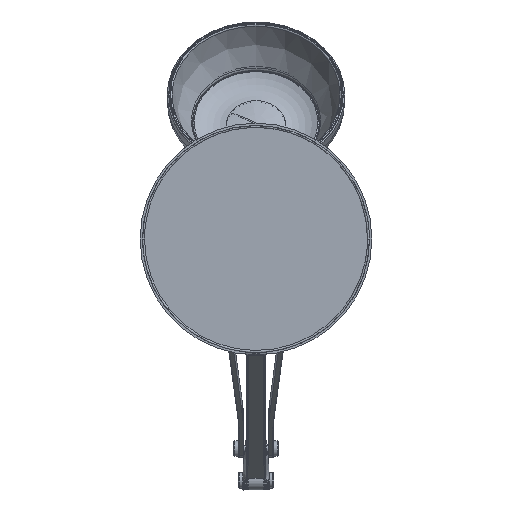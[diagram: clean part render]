
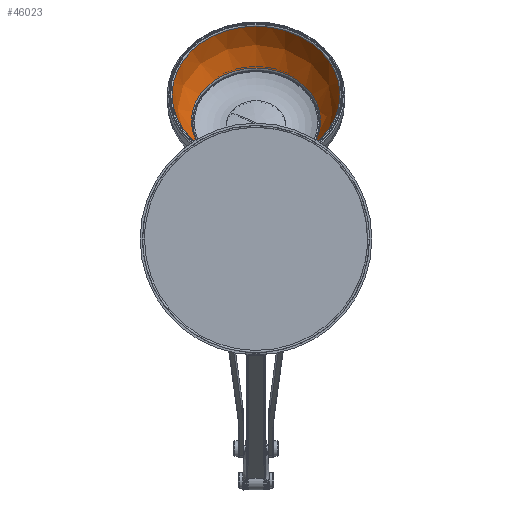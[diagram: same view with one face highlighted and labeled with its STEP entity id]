
A CAD part, front view. The second image highlights one B-rep face of the part: STEP entity #46023.
In plain terms, the highlighted free-form (B-spline) face has degree [2, 2] with [3, 9] control points.
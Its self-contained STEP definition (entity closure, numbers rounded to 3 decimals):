
#955=(
BOUNDED_SURFACE()
B_SPLINE_SURFACE(2,2,((#107862,#107863,#107864,#107865,#107866,#107867,
#107868,#107869,#107870),(#107871,#107872,#107873,#107874,#107875,#107876,
#107877,#107878,#107879),(#107880,#107881,#107882,#107883,#107884,#107885,
#107886,#107887,#107888)),.UNSPECIFIED.,.F.,.T.,.F.)
B_SPLINE_SURFACE_WITH_KNOTS((3,3),(3,2,2,2,3),(-0.754,-0.052),
(-3.142,-1.571,0.,1.571,3.142),
 .UNSPECIFIED.)
GEOMETRIC_REPRESENTATION_ITEM()
RATIONAL_B_SPLINE_SURFACE(((1.,0.707,1.,0.707,1.,
0.707,1.,0.707,1.),(0.939,0.664,
0.939,0.664,0.939,0.664,
0.939,0.664,0.939),(1.,0.707,
1.,0.707,1.,0.707,1.,0.707,1.)))
REPRESENTATION_ITEM('')
SURFACE()
);
#6872=FACE_OUTER_BOUND('',#9797,.T.);
#9797=EDGE_LOOP('',(#38037,#38038,#38039,#38040,#38041));
#16319=CIRCLE('',#50253,33.474);
#16320=CIRCLE('',#50254,33.474);
#16337=CIRCLE('',#50279,43.5);
#16350=CIRCLE('',#50296,37.201);
#20047=VERTEX_POINT('',#107767);
#20048=VERTEX_POINT('',#107769);
#20060=VERTEX_POINT('',#107809);
#26128=EDGE_CURVE('',#20047,#20048,#16319,.T.);
#26129=EDGE_CURVE('',#20048,#20047,#16320,.T.);
#26148=EDGE_CURVE('',#20060,#20060,#16337,.T.);
#26162=EDGE_CURVE('',#20048,#20060,#16350,.T.);
#38037=ORIENTED_EDGE('',*,*,#26128,.F.);
#38038=ORIENTED_EDGE('',*,*,#26129,.F.);
#38039=ORIENTED_EDGE('',*,*,#26162,.T.);
#38040=ORIENTED_EDGE('',*,*,#26148,.T.);
#38041=ORIENTED_EDGE('',*,*,#26162,.F.);
#46023=ADVANCED_FACE('',(#6872),#955,.T.);
#50253=AXIS2_PLACEMENT_3D('',#107770,#60191,#60192);
#50254=AXIS2_PLACEMENT_3D('',#107771,#60193,#60194);
#50279=AXIS2_PLACEMENT_3D('',#107810,#60245,#60246);
#50296=AXIS2_PLACEMENT_3D('',#107889,#60280,#60281);
#60191=DIRECTION('center_axis',(0.,-0.819,
0.574));
#60192=DIRECTION('ref_axis',(-1.,0.,0.));
#60193=DIRECTION('center_axis',(0.,-0.819,
0.574));
#60194=DIRECTION('ref_axis',(-1.,0.,0.));
#60245=DIRECTION('center_axis',(0.,-0.819,
0.574));
#60246=DIRECTION('ref_axis',(-1.,0.,0.));
#60280=DIRECTION('center_axis',(0.,-0.574,
-0.819));
#60281=DIRECTION('ref_axis',(1.,0.,0.));
#107767=CARTESIAN_POINT('',(0.,330.189,88.526));
#107769=CARTESIAN_POINT('',(33.474,310.989,61.106));
#107770=CARTESIAN_POINT('Origin',(0.,310.989,
61.106));
#107771=CARTESIAN_POINT('Origin',(0.,310.989,
61.106));
#107809=CARTESIAN_POINT('',(43.5,291.729,74.592));
#107810=CARTESIAN_POINT('Origin',(0.,291.729,
74.592));
#107862=CARTESIAN_POINT('Ctrl Pts',(33.474,310.989,61.106));
#107863=CARTESIAN_POINT('Ctrl Pts',(33.474,330.189,88.526));
#107864=CARTESIAN_POINT('Ctrl Pts',(0.,330.189,
88.526));
#107865=CARTESIAN_POINT('Ctrl Pts',(-33.474,330.189,
88.526));
#107866=CARTESIAN_POINT('Ctrl Pts',(-33.474,310.989,
61.106));
#107867=CARTESIAN_POINT('Ctrl Pts',(-33.474,291.789,
33.685));
#107868=CARTESIAN_POINT('Ctrl Pts',(0.,291.789,
33.685));
#107869=CARTESIAN_POINT('Ctrl Pts',(33.474,291.789,33.685));
#107870=CARTESIAN_POINT('Ctrl Pts',(33.474,310.989,61.106));
#107871=CARTESIAN_POINT('Ctrl Pts',(42.788,302.861,66.797));
#107872=CARTESIAN_POINT('Ctrl Pts',(42.788,327.403,101.847));
#107873=CARTESIAN_POINT('Ctrl Pts',(0.,327.403,
101.847));
#107874=CARTESIAN_POINT('Ctrl Pts',(-42.788,327.403,
101.847));
#107875=CARTESIAN_POINT('Ctrl Pts',(-42.788,302.861,
66.797));
#107876=CARTESIAN_POINT('Ctrl Pts',(-42.788,278.319,31.747));
#107877=CARTESIAN_POINT('Ctrl Pts',(0.,278.319,
31.747));
#107878=CARTESIAN_POINT('Ctrl Pts',(42.788,278.319,31.747));
#107879=CARTESIAN_POINT('Ctrl Pts',(42.788,302.861,66.797));
#107880=CARTESIAN_POINT('Ctrl Pts',(43.5,291.729,74.592));
#107881=CARTESIAN_POINT('Ctrl Pts',(43.5,316.679,110.225));
#107882=CARTESIAN_POINT('Ctrl Pts',(0.,316.679,
110.225));
#107883=CARTESIAN_POINT('Ctrl Pts',(-43.5,316.679,
110.225));
#107884=CARTESIAN_POINT('Ctrl Pts',(-43.5,291.729,
74.592));
#107885=CARTESIAN_POINT('Ctrl Pts',(-43.5,266.778,38.959));
#107886=CARTESIAN_POINT('Ctrl Pts',(0.,266.778,
38.959));
#107887=CARTESIAN_POINT('Ctrl Pts',(43.5,266.778,38.959));
#107888=CARTESIAN_POINT('Ctrl Pts',(43.5,291.729,74.592));
#107889=CARTESIAN_POINT('Origin',(6.35,290.134,75.709));
